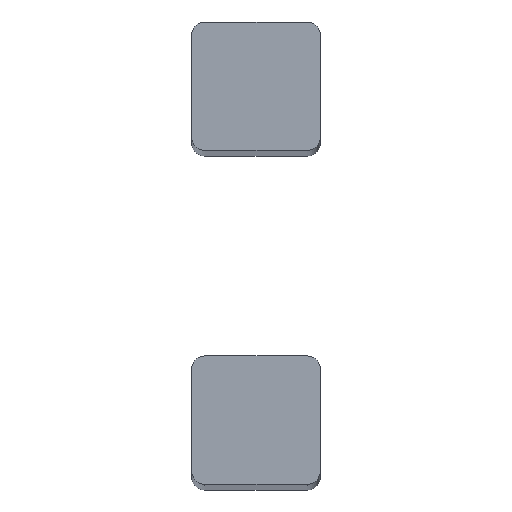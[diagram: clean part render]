
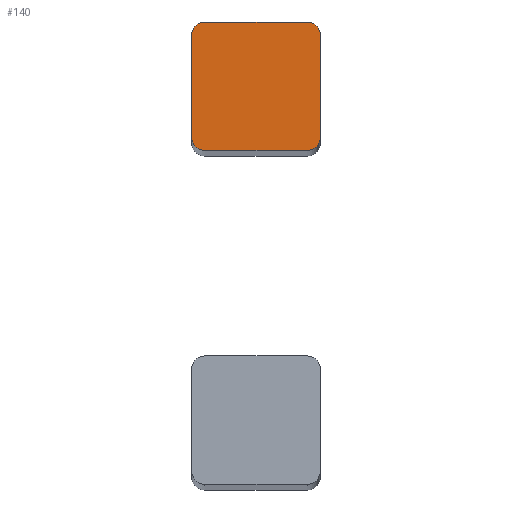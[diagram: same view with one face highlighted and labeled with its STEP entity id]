
A CAD part, top view. The second image highlights one B-rep face of the part: STEP entity #140.
In plain terms, the highlighted planar face has unit normal (0, 0, 1).
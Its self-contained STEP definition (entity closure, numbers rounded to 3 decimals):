
#1 = VERTEX_POINT ( 'NONE', #400 ) ;
#5 = EDGE_CURVE ( 'NONE', #481, #1, #122, .T. ) ;
#15 = VECTOR ( 'NONE', #621, 1000. ) ;
#25 = VERTEX_POINT ( 'NONE', #390 ) ;
#35 = CARTESIAN_POINT ( 'NONE',  ( -692.351, 17.959, 3037.5 ) ) ;
#45 = CARTESIAN_POINT ( 'NONE',  ( -670., 20.459, 3037.5 ) ) ;
#48 = EDGE_CURVE ( 'NONE', #25, #292, #206, .T. ) ;
#49 = ORIENTED_EDGE ( 'NONE', *, *, #48, .F. ) ;
#54 = VERTEX_POINT ( 'NONE', #405 ) ;
#56 = DIRECTION ( 'NONE',  ( 0., -1., 0. ) ) ;
#61 = PLANE ( 'NONE',  #530 ) ;
#64 = CARTESIAN_POINT ( 'NONE',  ( -692.5, 40.459, 3037.5 ) ) ;
#92 = DIRECTION ( 'NONE',  ( 0., -1., 0. ) ) ;
#99 = EDGE_CURVE ( 'NONE', #512, #626, #108, .T. ) ;
#107 = VECTOR ( 'NONE', #516, 1000. ) ;
#108 = LINE ( 'NONE', #211, #169 ) ;
#111 = CARTESIAN_POINT ( 'NONE',  ( -670., 40.459, 3037.5 ) ) ;
#122 = CIRCLE ( 'NONE', #316, 2.5 ) ;
#130 = LINE ( 'NONE', #271, #15 ) ;
#138 = DIRECTION ( 'NONE',  ( 0., -1., 0. ) ) ;
#140 = ADVANCED_FACE ( 'NONE', ( #311 ), #61, .F. ) ;
#169 = VECTOR ( 'NONE', #498, 1000. ) ;
#174 = CARTESIAN_POINT ( 'NONE',  ( -672.5, 17.959, 3037.5 ) ) ;
#182 = CARTESIAN_POINT ( 'NONE',  ( -672.5, 20.459, 3037.5 ) ) ;
#197 = AXIS2_PLACEMENT_3D ( 'NONE', #476, #380, #138 ) ;
#206 = CIRCLE ( 'NONE', #559, 2.5 ) ;
#209 = DIRECTION ( 'NONE',  ( 0., 0., -1. ) ) ;
#211 = CARTESIAN_POINT ( 'NONE',  ( -670., 38.951, 3037.5 ) ) ;
#220 = LINE ( 'NONE', #35, #107 ) ;
#223 = ORIENTED_EDGE ( 'NONE', *, *, #310, .F. ) ;
#236 = EDGE_LOOP ( 'NONE', ( #528, #611, #433, #279, #49, #519, #239, #223 ) ) ;
#239 = ORIENTED_EDGE ( 'NONE', *, *, #5, .F. ) ;
#271 = CARTESIAN_POINT ( 'NONE',  ( -692.351, 42.959, 3037.5 ) ) ;
#276 = CIRCLE ( 'NONE', #197, 2.5 ) ;
#279 = ORIENTED_EDGE ( 'NONE', *, *, #396, .F. ) ;
#280 = VECTOR ( 'NONE', #309, 1000. ) ;
#282 = CARTESIAN_POINT ( 'NONE',  ( -692.5, 42.959, 3037.5 ) ) ;
#286 = VERTEX_POINT ( 'NONE', #174 ) ;
#292 = VERTEX_POINT ( 'NONE', #282 ) ;
#302 = DIRECTION ( 'NONE',  ( 0., 0., -1. ) ) ;
#309 = DIRECTION ( 'NONE',  ( 0., 1., 0. ) ) ;
#310 = EDGE_CURVE ( 'NONE', #286, #481, #220, .T. ) ;
#311 = FACE_OUTER_BOUND ( 'NONE', #236, .T. ) ;
#316 = AXIS2_PLACEMENT_3D ( 'NONE', #543, #302, #92 ) ;
#327 = CIRCLE ( 'NONE', #378, 2.5 ) ;
#366 = CARTESIAN_POINT ( 'NONE',  ( -692.5, 17.959, 3037.5 ) ) ;
#378 = AXIS2_PLACEMENT_3D ( 'NONE', #182, #425, #514 ) ;
#380 = DIRECTION ( 'NONE',  ( 0., 0., -1. ) ) ;
#390 = CARTESIAN_POINT ( 'NONE',  ( -695., 40.459, 3037.5 ) ) ;
#396 = EDGE_CURVE ( 'NONE', #292, #54, #130, .T. ) ;
#400 = CARTESIAN_POINT ( 'NONE',  ( -695., 20.459, 3037.5 ) ) ;
#403 = DIRECTION ( 'NONE',  ( 0., 1., 0. ) ) ;
#405 = CARTESIAN_POINT ( 'NONE',  ( -672.5, 42.959, 3037.5 ) ) ;
#412 = DIRECTION ( 'NONE',  ( 0., 0., -1. ) ) ;
#415 = EDGE_CURVE ( 'NONE', #626, #286, #327, .T. ) ;
#425 = DIRECTION ( 'NONE',  ( 0., 0., -1. ) ) ;
#433 = ORIENTED_EDGE ( 'NONE', *, *, #456, .F. ) ;
#450 = CARTESIAN_POINT ( 'NONE',  ( -682.5, 30.459, 3037.5 ) ) ;
#456 = EDGE_CURVE ( 'NONE', #54, #512, #276, .T. ) ;
#476 = CARTESIAN_POINT ( 'NONE',  ( -672.5, 40.459, 3037.5 ) ) ;
#481 = VERTEX_POINT ( 'NONE', #366 ) ;
#498 = DIRECTION ( 'NONE',  ( 0., -1., 0. ) ) ;
#500 = LINE ( 'NONE', #556, #280 ) ;
#506 = EDGE_CURVE ( 'NONE', #1, #25, #500, .T. ) ;
#512 = VERTEX_POINT ( 'NONE', #111 ) ;
#514 = DIRECTION ( 'NONE',  ( 0., -1., 0. ) ) ;
#516 = DIRECTION ( 'NONE',  ( -1., 0., 0. ) ) ;
#519 = ORIENTED_EDGE ( 'NONE', *, *, #506, .F. ) ;
#528 = ORIENTED_EDGE ( 'NONE', *, *, #415, .F. ) ;
#530 = AXIS2_PLACEMENT_3D ( 'NONE', #450, #209, #403 ) ;
#543 = CARTESIAN_POINT ( 'NONE',  ( -692.5, 20.459, 3037.5 ) ) ;
#556 = CARTESIAN_POINT ( 'NONE',  ( -695., 38.951, 3037.5 ) ) ;
#559 = AXIS2_PLACEMENT_3D ( 'NONE', #64, #412, #56 ) ;
#611 = ORIENTED_EDGE ( 'NONE', *, *, #99, .F. ) ;
#621 = DIRECTION ( 'NONE',  ( 1., 0., 0. ) ) ;
#626 = VERTEX_POINT ( 'NONE', #45 ) ;
